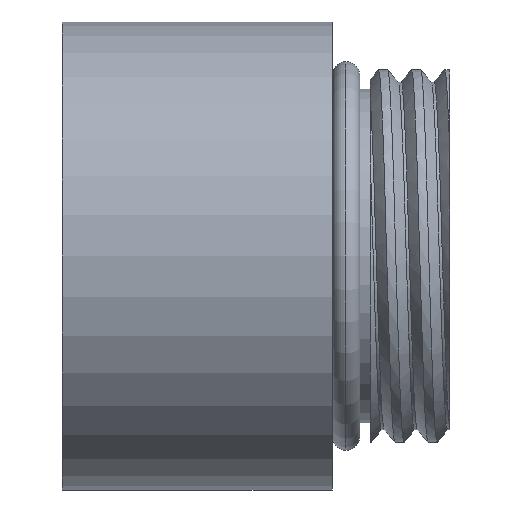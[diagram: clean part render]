
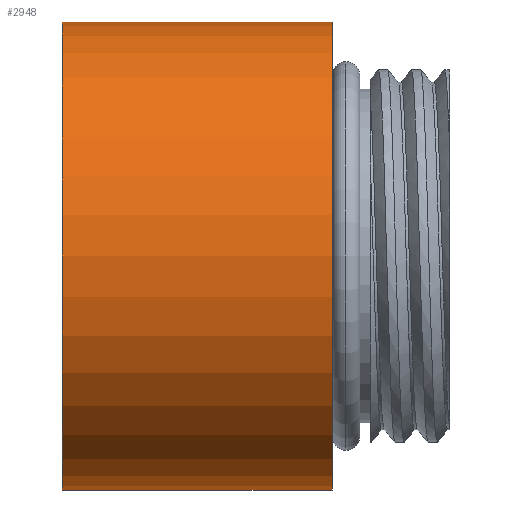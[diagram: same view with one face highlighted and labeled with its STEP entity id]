
A CAD part, front view. The second image highlights one B-rep face of the part: STEP entity #2948.
In plain terms, the highlighted cylindrical face has radius 9.982 mm (diameter 19.964 mm), a partial arc.
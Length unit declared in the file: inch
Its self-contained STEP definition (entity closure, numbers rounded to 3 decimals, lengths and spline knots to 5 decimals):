
#374 = DIRECTION ( 'NONE',  ( 0., 0., 1. ) ) ;
#375 = DIRECTION ( 'NONE',  ( -1., 0., 0. ) ) ;
#376 = CARTESIAN_POINT ( 'NONE',  ( 0., 0., 0. ) ) ;
#377 = AXIS2_PLACEMENT_3D ( 'NONE', #376, #375, #374 ) ;
#378 = CIRCLE ( 'NONE', #377, 0.393 ) ;
#506 = DIRECTION ( 'NONE',  ( -1., 0., 0. ) ) ;
#507 = AXIS2_PLACEMENT_3D ( 'NONE', #545, #506, #522 ) ;
#522 = DIRECTION ( 'NONE',  ( 0., 0., 1. ) ) ;
#523 = CYLINDRICAL_SURFACE ( 'NONE', #507, 0.393 ) ;
#534 = DIRECTION ( 'NONE',  ( -1., 0., 0. ) ) ;
#535 = VECTOR ( 'NONE', #534, 39.37008 ) ;
#536 = CARTESIAN_POINT ( 'NONE',  ( -0.11095, 0., 0.393 ) ) ;
#537 = LINE ( 'NONE', #536, #535 ) ;
#538 = CARTESIAN_POINT ( 'NONE',  ( 0., 0., 0.393 ) ) ;
#544 = DIRECTION ( 'NONE',  ( -1., 0., 0. ) ) ;
#545 = CARTESIAN_POINT ( 'NONE',  ( -0.11095, 0., 0. ) ) ;
#546 = FACE_OUTER_BOUND ( 'NONE', #2949, .T. ) ;
#612 = VECTOR ( 'NONE', #544, 39.37008 ) ;
#613 = CARTESIAN_POINT ( 'NONE',  ( -0.11095, 0., -0.393 ) ) ;
#614 = LINE ( 'NONE', #613, #612 ) ;
#861 = CARTESIAN_POINT ( 'NONE',  ( 0., 0., -0.393 ) ) ;
#862 = CARTESIAN_POINT ( 'NONE',  ( 0.453, 0., -0.393 ) ) ;
#863 = CARTESIAN_POINT ( 'NONE',  ( 0.453, 0., 0.393 ) ) ;
#946 = DIRECTION ( 'NONE',  ( 0., 0., 1. ) ) ;
#947 = DIRECTION ( 'NONE',  ( -1., 0., 0. ) ) ;
#1167 = CARTESIAN_POINT ( 'NONE',  ( 0.453, 0., 0. ) ) ;
#1168 = AXIS2_PLACEMENT_3D ( 'NONE', #1167, #947, #946 ) ;
#1169 = CIRCLE ( 'NONE', #1168, 0.393 ) ;
#2907 = ORIENTED_EDGE ( 'NONE', *, *, #3055, .T. ) ;
#2908 = ORIENTED_EDGE ( 'NONE', *, *, #2972, .T. ) ;
#2943 = ORIENTED_EDGE ( 'NONE', *, *, #2944, .F. ) ;
#2944 = EDGE_CURVE ( 'NONE', #3016, #2970, #378, .T. ) ;
#2948 = ADVANCED_FACE ( 'NONE', ( #546 ), #523, .T. ) ;
#2949 = EDGE_LOOP ( 'NONE', ( #2950, #2907, #2908, #2943 ) ) ;
#2950 = ORIENTED_EDGE ( 'NONE', *, *, #2967, .F. ) ;
#2967 = EDGE_CURVE ( 'NONE', #3015, #3016, #614, .T. ) ;
#2970 = VERTEX_POINT ( 'NONE', #538 ) ;
#2972 = EDGE_CURVE ( 'NONE', #3014, #2970, #537, .T. ) ;
#3014 = VERTEX_POINT ( 'NONE', #863 ) ;
#3015 = VERTEX_POINT ( 'NONE', #862 ) ;
#3016 = VERTEX_POINT ( 'NONE', #861 ) ;
#3055 = EDGE_CURVE ( 'NONE', #3015, #3014, #1169, .T. ) ;
